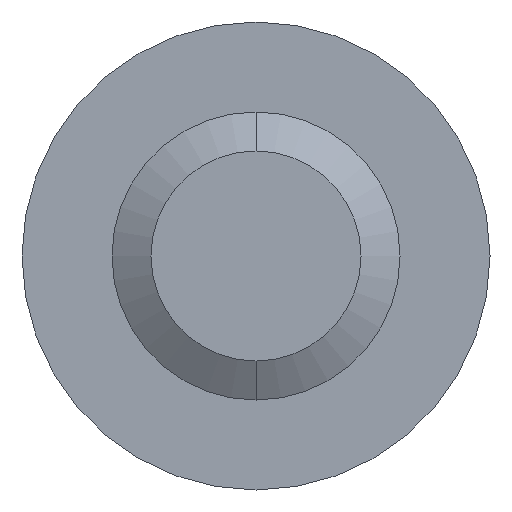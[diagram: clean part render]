
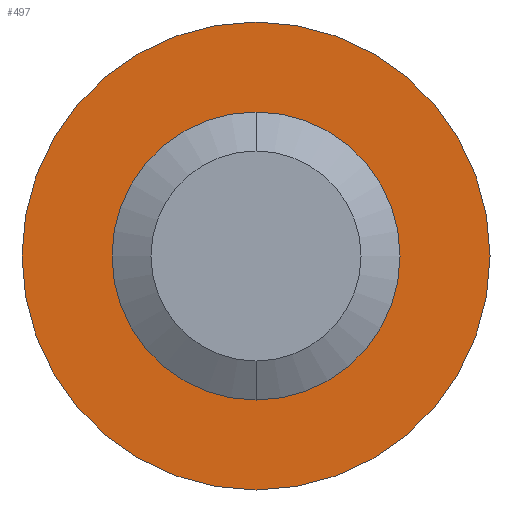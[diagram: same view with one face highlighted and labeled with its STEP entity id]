
A CAD part, front view. The second image highlights one B-rep face of the part: STEP entity #497.
In plain terms, the highlighted planar face has unit normal (0, -1, 0).
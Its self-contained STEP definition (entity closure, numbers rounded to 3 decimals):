
#45 = DIRECTION ( 'NONE',  ( 0., 0., 1. ) ) ;
#72 = FACE_BOUND ( 'NONE', #472, .T. ) ;
#104 = EDGE_CURVE ( 'NONE', #115, #903, #1560, .T. ) ;
#115 = VERTEX_POINT ( 'NONE', #972 ) ;
#130 = CIRCLE ( 'NONE', #1423, 6.5 ) ;
#138 = DIRECTION ( 'NONE',  ( 0., 0., 1. ) ) ;
#168 = DIRECTION ( 'NONE',  ( 0., 1., 0. ) ) ;
#204 = ORIENTED_EDGE ( 'NONE', *, *, #874, .T. ) ;
#301 = EDGE_CURVE ( 'NONE', #707, #1323, #2325, .T. ) ;
#350 = EDGE_CURVE ( 'NONE', #903, #115, #130, .T. ) ;
#472 = EDGE_LOOP ( 'NONE', ( #204, #1094 ) ) ;
#497 = ADVANCED_FACE ( 'NONE', ( #1579, #72 ), #1829, .F. ) ;
#707 = VERTEX_POINT ( 'NONE', #810 ) ;
#732 = DIRECTION ( 'NONE',  ( 0., 1., 0. ) ) ;
#810 = CARTESIAN_POINT ( 'NONE',  ( 0., 25., 4. ) ) ;
#874 = EDGE_CURVE ( 'NONE', #1323, #707, #2411, .T. ) ;
#903 = VERTEX_POINT ( 'NONE', #1727 ) ;
#972 = CARTESIAN_POINT ( 'NONE',  ( 0., 25., 6.5 ) ) ;
#1030 = DIRECTION ( 'NONE',  ( 0., 1., 0. ) ) ;
#1077 = AXIS2_PLACEMENT_3D ( 'NONE', #2024, #732, #2439 ) ;
#1094 = ORIENTED_EDGE ( 'NONE', *, *, #301, .T. ) ;
#1110 = CARTESIAN_POINT ( 'NONE',  ( 0., 25., 0. ) ) ;
#1156 = AXIS2_PLACEMENT_3D ( 'NONE', #1450, #1030, #138 ) ;
#1194 = AXIS2_PLACEMENT_3D ( 'NONE', #1110, #1292, #45 ) ;
#1278 = DIRECTION ( 'NONE',  ( 0., 0., 1. ) ) ;
#1292 = DIRECTION ( 'NONE',  ( 0., 1., 0. ) ) ;
#1296 = CARTESIAN_POINT ( 'NONE',  ( 0., 25., 0. ) ) ;
#1323 = VERTEX_POINT ( 'NONE', #1839 ) ;
#1423 = AXIS2_PLACEMENT_3D ( 'NONE', #1296, #1940, #1278 ) ;
#1450 = CARTESIAN_POINT ( 'NONE',  ( 0., 25., 0. ) ) ;
#1560 = CIRCLE ( 'NONE', #1156, 6.5 ) ;
#1579 = FACE_OUTER_BOUND ( 'NONE', #2603, .T. ) ;
#1727 = CARTESIAN_POINT ( 'NONE',  ( 0., 25., -6.5 ) ) ;
#1829 = PLANE ( 'NONE',  #1077 ) ;
#1839 = CARTESIAN_POINT ( 'NONE',  ( 0., 25., -4. ) ) ;
#1940 = DIRECTION ( 'NONE',  ( 0., 1., 0. ) ) ;
#2024 = CARTESIAN_POINT ( 'NONE',  ( 0., 25., 0. ) ) ;
#2159 = ORIENTED_EDGE ( 'NONE', *, *, #104, .F. ) ;
#2325 = CIRCLE ( 'NONE', #2378, 4. ) ;
#2351 = DIRECTION ( 'NONE',  ( 0., 0., 1. ) ) ;
#2378 = AXIS2_PLACEMENT_3D ( 'NONE', #2512, #168, #2351 ) ;
#2411 = CIRCLE ( 'NONE', #1194, 4. ) ;
#2439 = DIRECTION ( 'NONE',  ( 0., 0., 1. ) ) ;
#2512 = CARTESIAN_POINT ( 'NONE',  ( 0., 25., 0. ) ) ;
#2603 = EDGE_LOOP ( 'NONE', ( #2715, #2159 ) ) ;
#2715 = ORIENTED_EDGE ( 'NONE', *, *, #350, .F. ) ;
